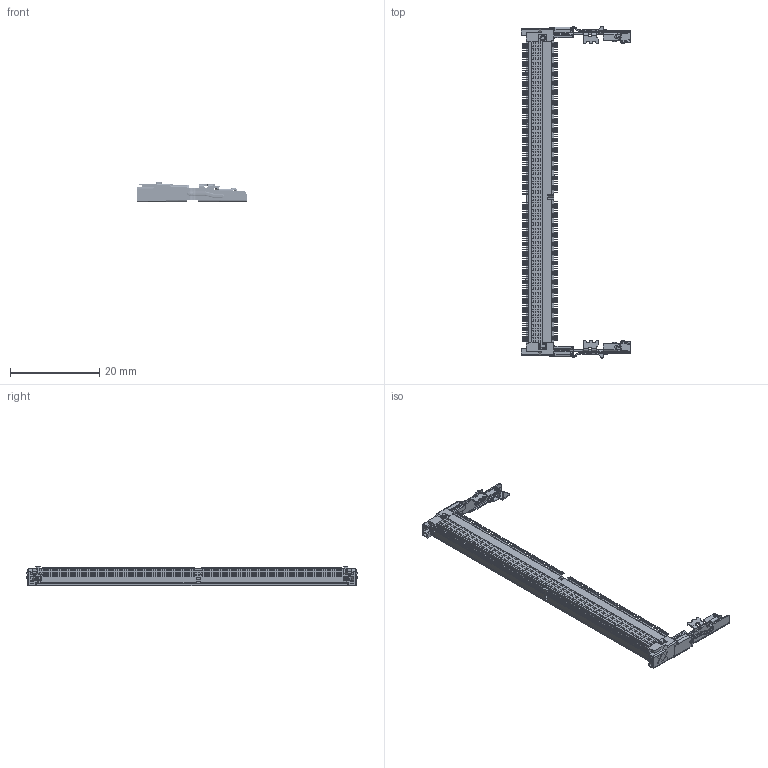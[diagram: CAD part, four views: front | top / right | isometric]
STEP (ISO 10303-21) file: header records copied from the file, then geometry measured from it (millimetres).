
FILE_DESCRIPTION((''),'2;1');
FILE_NAME('D5ASX-262XX-XX40X','2021-12-14T17:59:31',('MichaelSun'),(''),'CREO PARAMETRIC BY PTC INC, 2016390','CREO PARAMETRIC BY PTC INC, 2016390','');
FILE_SCHEMA(('AUTOMOTIVE_DESIGN { 1 0 10303 214 1 1 1 1 }'));
Products named in the file (1): D5ASX-262XX-XX40X
Bounding box: 24.41 x 74.22 x 4.45 mm (x, y, z)
Volume: 1247 mm3; surface area: 3289.7 mm2
Topology: 1 solids, 1 shells, 9820 faces, 27740 edges, 18456 vertices
Faces by surface type: plane 6302, cylinder 3226, bspline 130, cone 82, torus 78, sphere 2
Entity records: 381295 total; most frequent: CARTESIAN_POINT 61182, ORIENTED_EDGE 55476, DIRECTION 53790, EDGE_CURVE 27738, VECTOR 20478, LINE 20478, VERTEX_POINT 18456, AXIS2_PLACEMENT_3D 16656
